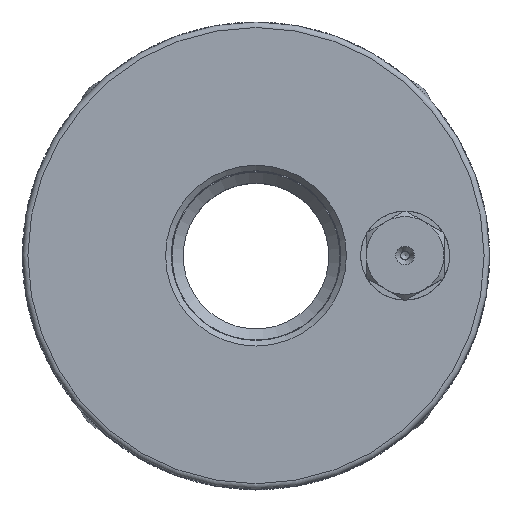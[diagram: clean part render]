
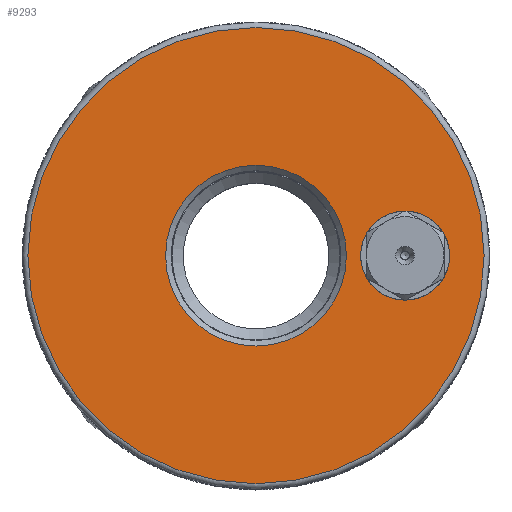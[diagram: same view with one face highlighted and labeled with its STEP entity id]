
A CAD part, top view. The second image highlights one B-rep face of the part: STEP entity #9293.
In plain terms, the highlighted planar face has unit normal (0, 0, 1).
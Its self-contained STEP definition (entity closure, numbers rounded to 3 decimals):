
#4567=ORIENTED_EDGE('',*,*,#6010,.T.);
#4568=ORIENTED_EDGE('',*,*,#6011,.T.);
#4569=ORIENTED_EDGE('',*,*,#6012,.F.);
#6010=EDGE_CURVE('',#6938,#6938,#7311,.T.);
#6011=EDGE_CURVE('',#6939,#6939,#7312,.F.);
#6012=EDGE_CURVE('',#6940,#6940,#7313,.T.);
#6938=VERTEX_POINT('',#15727);
#6939=VERTEX_POINT('',#15729);
#6940=VERTEX_POINT('',#15731);
#7311=CIRCLE('',#10158,16.25);
#7312=CIRCLE('',#10159,41.);
#7313=CIRCLE('',#10160,8.);
#7842=EDGE_LOOP('',(#4567));
#7843=EDGE_LOOP('',(#4568));
#7844=EDGE_LOOP('',(#4569));
#8444=FACE_BOUND('',#7842,.T.);
#8445=FACE_BOUND('',#7843,.T.);
#8446=FACE_BOUND('',#7844,.T.);
#8850=PLANE('',#10157);
#9293=ADVANCED_FACE('',(#8444,#8445,#8446),#8850,.F.);
#10157=AXIS2_PLACEMENT_3D('',#15725,#12625,#12626);
#10158=AXIS2_PLACEMENT_3D('',#15726,#12627,#12628);
#10159=AXIS2_PLACEMENT_3D('',#15728,#12629,#12630);
#10160=AXIS2_PLACEMENT_3D('',#15730,#12631,#12632);
#12625=DIRECTION('',(0.,0.,-1.));
#12626=DIRECTION('',(-1.,0.,0.));
#12627=DIRECTION('',(0.,0.,-1.));
#12628=DIRECTION('',(-1.,0.,0.));
#12629=DIRECTION('',(0.,0.,-1.));
#12630=DIRECTION('',(-1.,0.,0.));
#12631=DIRECTION('',(0.,0.,1.));
#12632=DIRECTION('',(1.,0.,0.));
#15725=CARTESIAN_POINT('',(42.,0.,42.));
#15726=CARTESIAN_POINT('',(0.,0.,42.));
#15727=CARTESIAN_POINT('',(-16.25,0.,42.));
#15728=CARTESIAN_POINT('',(0.,0.,42.));
#15729=CARTESIAN_POINT('',(-41.,0.,42.));
#15730=CARTESIAN_POINT('',(26.8,0.,42.));
#15731=CARTESIAN_POINT('',(34.8,0.,42.));
